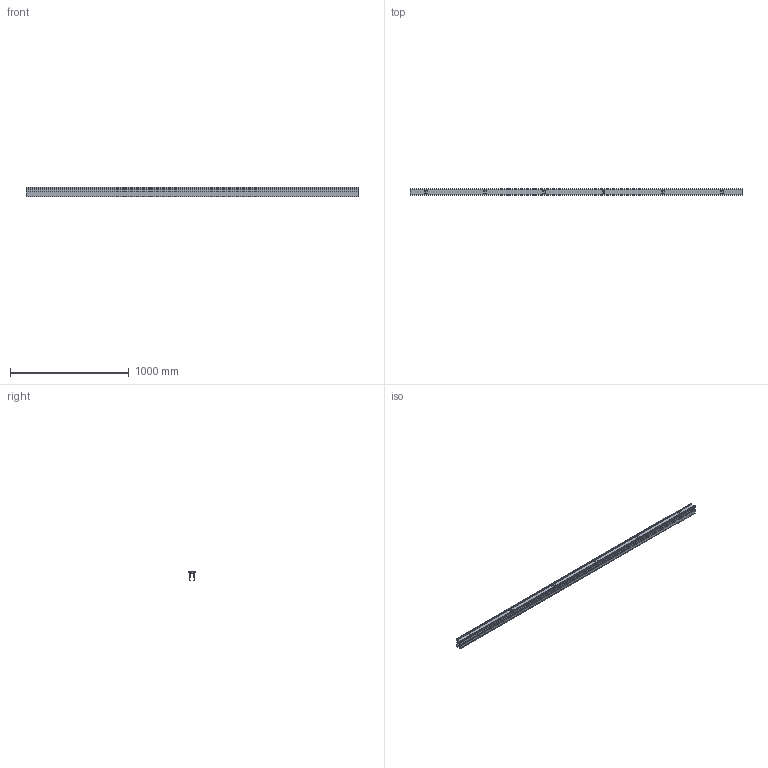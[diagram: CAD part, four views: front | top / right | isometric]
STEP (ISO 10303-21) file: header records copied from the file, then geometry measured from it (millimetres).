
FILE_DESCRIPTION(('STEP AP242'),'1');
FILE_NAME('OPO_65.084.12_volu_schn_3d.stp','2026-02-23T17:29:24',(' '),(' '),'Spatial InterOp 3D',' ',' ');
FILE_SCHEMA(('AP242_MANAGED_MODEL_BASED_3D_ENGINEERING_MIM_LF {1 0 10303 442 1 1 4}'));
Length unit declared in the file: millimetre
Products named in the file (1): 1
Bounding box: 2800 x 55 x 81 mm (x, y, z)
Volume: 2388460 mm3; surface area: 1747535.5 mm2
Topology: 5 solids, 5 shells, 316 faces, 3744 edges, 6261 vertices
Faces by surface type: plane 256, cylinder 60
Entity records: 47665 total; most frequent: CARTESIAN_POINT 4894, DIRECTION 4850, LINE 3274, VECTOR 3274, STYLED_ITEM 3200, PRESENTATION_STYLE_ASSIGNMENT 3200, COLOUR_RGB 3200, COMPOSITE_CURVE 2884
